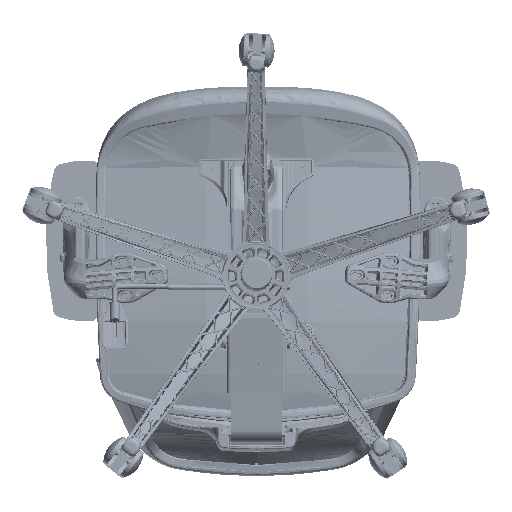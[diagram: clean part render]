
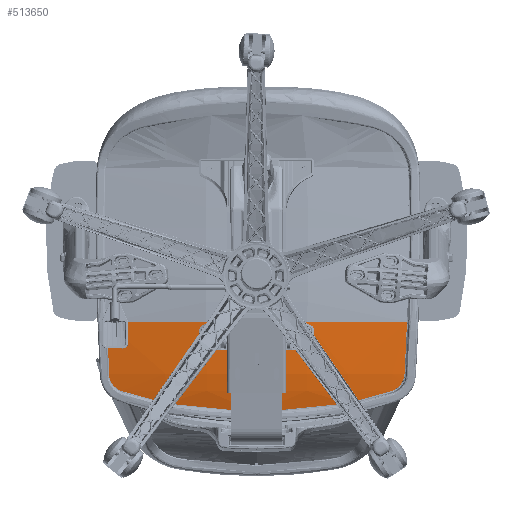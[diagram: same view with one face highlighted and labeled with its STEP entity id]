
A CAD part, front view. The second image highlights one B-rep face of the part: STEP entity #513650.
In plain terms, the highlighted toroidal (fillet/blend) face has major radius 870.458 mm and minor radius 664.666 mm.
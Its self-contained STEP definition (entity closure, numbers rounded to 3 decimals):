
#513548=CARTESIAN_POINT('',(-172.481,-79.579,
229.844));
#513549=CARTESIAN_POINT('',(-174.511,-79.826,
229.72));
#513550=CARTESIAN_POINT('',(-178.435,-80.267,
229.106));
#513551=CARTESIAN_POINT('',(-183.944,-80.757,
227.071));
#513552=CARTESIAN_POINT('',(-188.986,-81.07,
223.989));
#513553=CARTESIAN_POINT('',(-193.246,-81.179,
220.077));
#513554=CARTESIAN_POINT('',(-196.741,-81.078,
215.339));
#513555=CARTESIAN_POINT('',(-198.389,-80.867,
211.834));
#513556=CARTESIAN_POINT('',(-199.057,-80.724,
209.977));
#513558=CARTESIAN_POINT('',(-199.057,-80.724,
209.977));
#513559=CARTESIAN_POINT('',(-201.734,-80.146,
202.492));
#513560=CARTESIAN_POINT('',(-206.732,-79.056,
187.39));
#513561=CARTESIAN_POINT('',(-213.176,-77.598,
164.324));
#513562=CARTESIAN_POINT('',(-216.747,-76.736,
148.724));
#513563=CARTESIAN_POINT('',(-218.354,-76.331,
140.865));
#513565=CARTESIAN_POINT('',(-218.354,-76.331,
140.865));
#513566=CARTESIAN_POINT('',(-221.151,-75.466,
125.463));
#513567=CARTESIAN_POINT('',(-225.934,-74.062,
94.496));
#513568=CARTESIAN_POINT('',(-230.722,-72.907,
47.445));
#513569=CARTESIAN_POINT('',(-232.271,-72.76,
15.915));
#513570=CARTESIAN_POINT('',(-232.641,-72.842,
0.089));
#513572=CARTESIAN_POINT('',(-232.641,-72.842,
0.089));
#513573=CARTESIAN_POINT('',(-232.275,-72.759,
-15.792));
#513574=CARTESIAN_POINT('',(-230.729,-72.907,
-47.413));
#513575=CARTESIAN_POINT('',(-225.94,-74.062,
-94.478));
#513576=CARTESIAN_POINT('',(-221.142,-75.467,
-125.501));
#513577=CARTESIAN_POINT('',(-218.335,-76.334,
-140.932));
#513579=CARTESIAN_POINT('',(-218.335,-76.334,
-140.932));
#513580=CARTESIAN_POINT('',(-216.733,-76.739,
-148.774));
#513581=CARTESIAN_POINT('',(-213.17,-77.6,
-164.347));
#513582=CARTESIAN_POINT('',(-206.727,-79.057,
-187.411));
#513583=CARTESIAN_POINT('',(-201.725,-80.148,
-202.515));
#513584=CARTESIAN_POINT('',(-199.044,-80.726,
-210.004));
#513586=CARTESIAN_POINT('',(-199.044,-80.726,
-210.004));
#513587=CARTESIAN_POINT('',(-198.37,-80.869,
-211.872));
#513588=CARTESIAN_POINT('',(-196.712,-81.081,
-215.393));
#513589=CARTESIAN_POINT('',(-193.201,-81.178,
-220.126));
#513590=CARTESIAN_POINT('',(-188.945,-81.068,
-224.018));
#513591=CARTESIAN_POINT('',(-183.912,-80.755,
-227.083));
#513592=CARTESIAN_POINT('',(-178.441,-80.267,
-229.103));
#513593=CARTESIAN_POINT('',(-174.515,-79.827,
-229.717));
#513594=CARTESIAN_POINT('',(-172.481,-79.579,
-229.844));
#513596=CARTESIAN_POINT('',(-172.481,-79.579,
-229.844));
#513597=CARTESIAN_POINT('',(-163.576,-78.487,
-230.343));
#513598=CARTESIAN_POINT('',(-145.718,-76.66,
-231.285));
#513599=CARTESIAN_POINT('',(-118.836,-74.995,
-232.526));
#513600=CARTESIAN_POINT('',(-100.879,-74.602,
-233.238));
#513601=CARTESIAN_POINT('',(-91.899,-74.586,
-233.564));
#513603=CARTESIAN_POINT('',(-91.899,-1591.82,0.));
#513604=DIRECTION('',(1.,0.,0.));
#513605=DIRECTION('',(0.,0.988,-0.152));
#513606=AXIS2_PLACEMENT_3D('',#513603,#513604,#513605);
#513608=CARTESIAN_POINT('',(-91.899,-74.586,
233.564));
#513609=CARTESIAN_POINT('',(-100.879,-74.602,
233.238));
#513610=CARTESIAN_POINT('',(-118.835,-74.995,
232.526));
#513611=CARTESIAN_POINT('',(-145.718,-76.66,
231.285));
#513612=CARTESIAN_POINT('',(-163.575,-78.487,
230.343));
#513613=CARTESIAN_POINT('',(-172.481,-79.579,
229.844));
#513615=VERTEX_POINT('',#513548);
#513616=VERTEX_POINT('',#513556);
#513617=VERTEX_POINT('',#513563);
#513618=VERTEX_POINT('',#513570);
#513619=VERTEX_POINT('',#513577);
#513620=VERTEX_POINT('',#513584);
#513621=VERTEX_POINT('',#513594);
#513622=VERTEX_POINT('',#513601);
#513623=CARTESIAN_POINT('',(-91.899,-74.586,
233.564));
#513624=VERTEX_POINT('',#513623);
#513625=CARTESIAN_POINT('',(-87.03,-1591.82,0.));
#513626=DIRECTION('',(1.,0.,0.));
#513627=DIRECTION('',(0.,0.988,0.152));
#513628=AXIS2_PLACEMENT_3D('',#513625,#513626,#513627);
#513629=TOROIDAL_SURFACE('',#513628,870.458,664.666);
#513631=ORIENTED_EDGE('',*,*,#513630,.T.);
#513633=ORIENTED_EDGE('',*,*,#513632,.T.);
#513635=ORIENTED_EDGE('',*,*,#513634,.T.);
#513637=ORIENTED_EDGE('',*,*,#513636,.T.);
#513639=ORIENTED_EDGE('',*,*,#513638,.T.);
#513641=ORIENTED_EDGE('',*,*,#513640,.T.);
#513643=ORIENTED_EDGE('',*,*,#513642,.T.);
#513645=ORIENTED_EDGE('',*,*,#513644,.T.);
#513647=ORIENTED_EDGE('',*,*,#513646,.T.);
#513648=EDGE_LOOP('',(#513631,#513633,#513635,#513637,#513639,#513641,#513643,
#513645,#513647));
#513649=FACE_OUTER_BOUND('',#513648,.F.);
#513650=ADVANCED_FACE('',(#513649),#513629,.T.);
#513557=B_SPLINE_CURVE_WITH_KNOTS('',3,(#513548,#513549,#513550,#513551,#513552,
#513553,#513554,#513555,#513556),.UNSPECIFIED.,.F.,.F.,(4,1,1,1,1,1,4),(0.,
0.167,0.333,0.5,0.667,0.833,
1.),.UNSPECIFIED.);
#513564=B_SPLINE_CURVE_WITH_KNOTS('',3,(#513558,#513559,#513560,#513561,#513562,
#513563),.UNSPECIFIED.,.F.,.F.,(4,1,1,4),(0.,0.333,
0.667,1.),.UNSPECIFIED.);
#513571=B_SPLINE_CURVE_WITH_KNOTS('',3,(#513565,#513566,#513567,#513568,#513569,
#513570),.UNSPECIFIED.,.F.,.F.,(4,1,1,4),(0.,0.333,
0.667,1.),.UNSPECIFIED.);
#513578=B_SPLINE_CURVE_WITH_KNOTS('',3,(#513572,#513573,#513574,#513575,#513576,
#513577),.UNSPECIFIED.,.F.,.F.,(4,1,1,4),(0.,0.333,
0.667,1.),.UNSPECIFIED.);
#513585=B_SPLINE_CURVE_WITH_KNOTS('',3,(#513579,#513580,#513581,#513582,#513583,
#513584),.UNSPECIFIED.,.F.,.F.,(4,1,1,4),(0.,0.333,
0.667,1.),.UNSPECIFIED.);
#513595=B_SPLINE_CURVE_WITH_KNOTS('',3,(#513586,#513587,#513588,#513589,#513590,
#513591,#513592,#513593,#513594),.UNSPECIFIED.,.F.,.F.,(4,1,1,1,1,1,4),(0.,
0.167,0.333,0.5,0.667,0.833,
1.),.UNSPECIFIED.);
#513602=B_SPLINE_CURVE_WITH_KNOTS('',3,(#513596,#513597,#513598,#513599,#513600,
#513601),.UNSPECIFIED.,.F.,.F.,(4,1,1,4),(0.,0.333,
0.667,1.),.UNSPECIFIED.);
#513607=CIRCLE('',#513606,1535.106);
#513614=B_SPLINE_CURVE_WITH_KNOTS('',3,(#513608,#513609,#513610,#513611,#513612,
#513613),.UNSPECIFIED.,.F.,.F.,(4,1,1,4),(0.,0.333,
0.667,1.),.UNSPECIFIED.);
#513630=EDGE_CURVE('',#513615,#513616,#513557,.T.);
#513632=EDGE_CURVE('',#513616,#513617,#513564,.T.);
#513634=EDGE_CURVE('',#513617,#513618,#513571,.T.);
#513636=EDGE_CURVE('',#513618,#513619,#513578,.T.);
#513638=EDGE_CURVE('',#513619,#513620,#513585,.T.);
#513640=EDGE_CURVE('',#513620,#513621,#513595,.T.);
#513642=EDGE_CURVE('',#513621,#513622,#513602,.T.);
#513644=EDGE_CURVE('',#513622,#513624,#513607,.T.);
#513646=EDGE_CURVE('',#513624,#513615,#513614,.T.);
